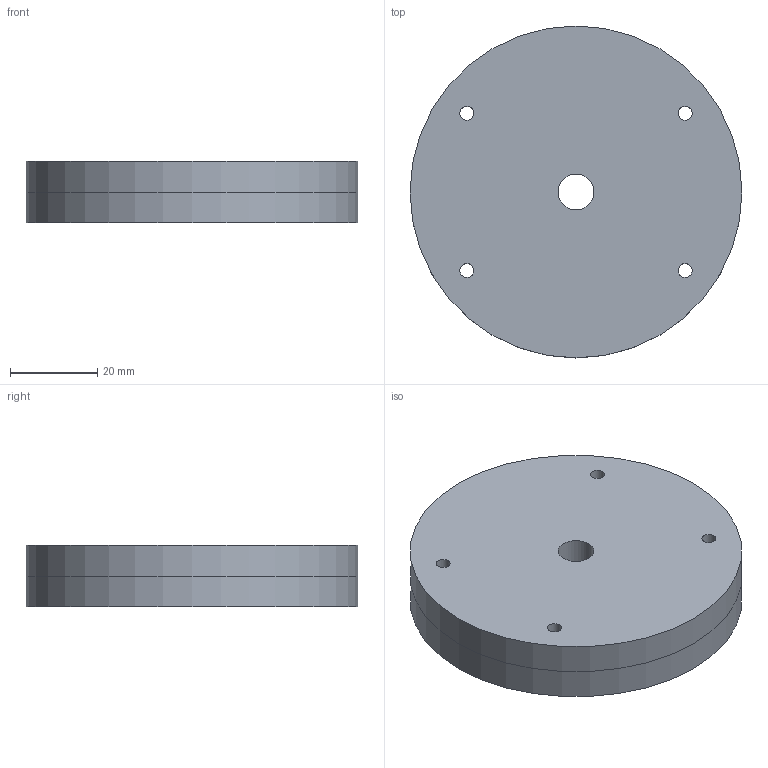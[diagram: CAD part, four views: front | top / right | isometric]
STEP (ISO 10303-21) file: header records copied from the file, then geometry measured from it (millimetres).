
FILE_DESCRIPTION(('Open CASCADE Model'),'2;1');
FILE_NAME('Open CASCADE Shape Model','2026-09-16T16:54:27',('Author'),( 'Open CASCADE'),'Open CASCADE STEP processor 7.8','Open CASCADE 7.8' ,'Unknown');
FILE_SCHEMA(('AUTOMOTIVE_DESIGN { 1 0 10303 214 1 1 1 1 }'));
Length unit declared in the file: millimetre
Products named in the file (1): Open CASCADE STEP translator 7.8 23
Bounding box: 76 x 76 x 14 mm (x, y, z)
Volume: 62320.7 mm3; surface area: 13169.2 mm2
Topology: 1 solids, 1 shells, 10 faces, 22 edges, 14 vertices
Faces by surface type: cylinder 8, plane 2
Full cylindrical faces by diameter (mm): 3.2 x4, 8.2 x2, 76 x2
Entity records: 625 total; most frequent: CARTESIAN_POINT 147, DIRECTION 91, ORIENTED_EDGE 44, PCURVE 44, DEFINITIONAL_REPRESENTATION 44, LINE 38, VECTOR 38, AXIS2_PLACEMENT_3D 25
